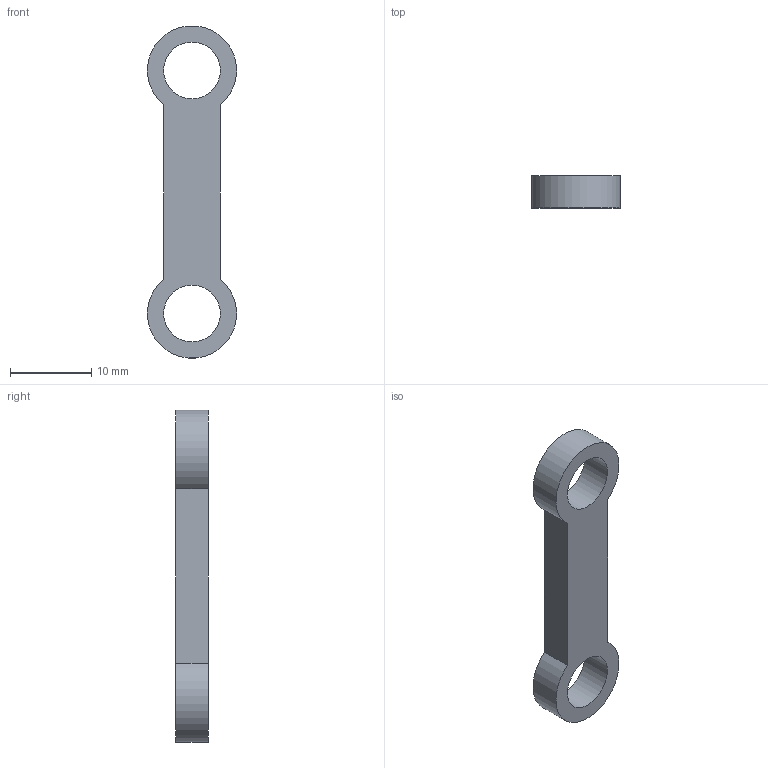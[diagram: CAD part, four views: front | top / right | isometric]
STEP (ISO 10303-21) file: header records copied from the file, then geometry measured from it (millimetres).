
FILE_DESCRIPTION(('Open CASCADE Model'),'2;1');
FILE_NAME('Open CASCADE Shape Model','2026-10-17T22:15:36',('Author'),( 'Open CASCADE'),'Open CASCADE STEP processor 7.9','Open CASCADE 7.9' ,'Unknown');
FILE_SCHEMA(('AUTOMOTIVE_DESIGN { 1 0 10303 214 1 1 1 1 }'));
Length unit declared in the file: millimetre
Products named in the file (1): Open CASCADE STEP translator 7.9 17
Bounding box: 10.99 x 4 x 40.96 mm (x, y, z)
Volume: 1006.7 mm3; surface area: 1067.1 mm2
Topology: 1 solids, 1 shells, 8 faces, 18 edges, 12 vertices
Faces by surface type: cylinder 4, plane 4
Full cylindrical faces by diameter (mm): 7 x2
Entity records: 492 total; most frequent: CARTESIAN_POINT 119, DIRECTION 66, ORIENTED_EDGE 36, PCURVE 36, DEFINITIONAL_REPRESENTATION 36, LINE 30, VECTOR 30, EDGE_CURVE 18
